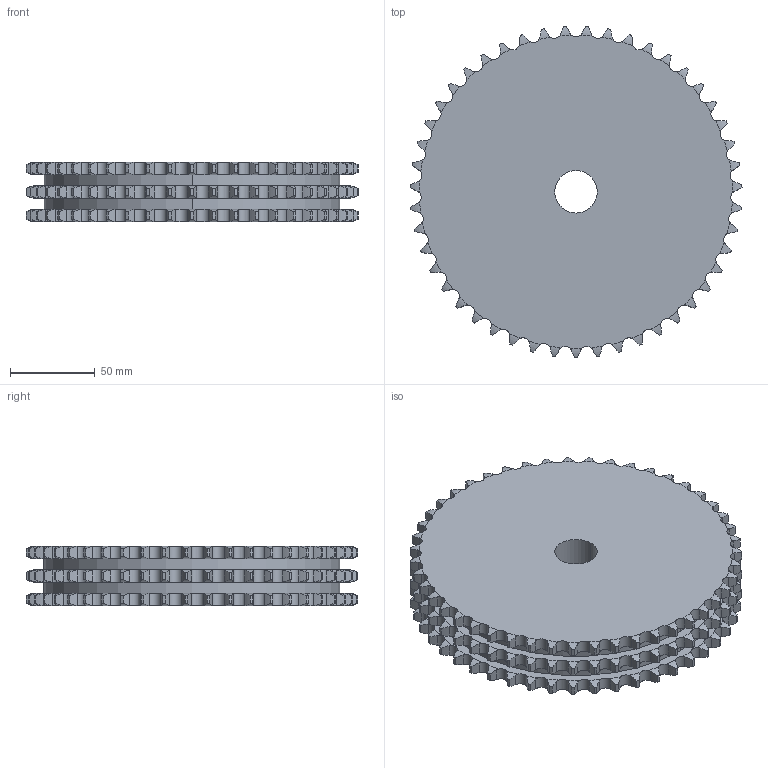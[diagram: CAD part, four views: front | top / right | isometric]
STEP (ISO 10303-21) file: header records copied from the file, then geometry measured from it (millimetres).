
FILE_DESCRIPTION((''),'2;1');
FILE_NAME('500-203-0047_PRT','2021-02-12T',('Brieden'),('Brieden'),'PRO/ENGINEER BY PARAMETRIC TECHNOLOGY CORPORATION, 2010160','PRO/ENGINEER BY PARAMETRIC TECHNOLOGY CORPORATION, 2010160','');
FILE_SCHEMA(('AUTOMOTIVE_DESIGN { 1 0 10303 214 1 1 1 1 }'));
Length unit declared in the file: millimetre
Products named in the file (1): 500-203-0047_PRT
Bounding box: 195.46 x 195.35 x 34.9 mm (x, y, z)
Volume: 894247.1 mm3; surface area: 97786.2 mm2
Topology: 1 solids, 1 shells, 858 faces, 2556 edges, 1704 vertices
Faces by surface type: cylinder 570, torus 282, plane 6
Entity records: 41763 total; most frequent: CARTESIAN_POINT 12360, ORIENTED_EDGE 5112, DIRECTION 4002, PRESENTATION_STYLE_ASSIGNMENT 2557, STYLED_ITEM 2557, CURVE_STYLE 2556, EDGE_CURVE 2556, AXIS2_PLACEMENT_3D 1716
